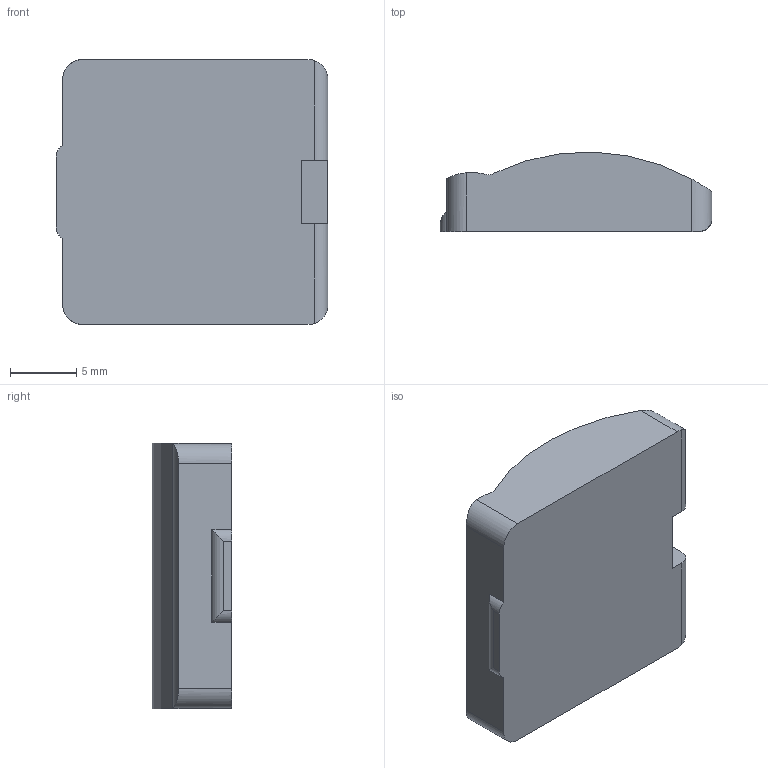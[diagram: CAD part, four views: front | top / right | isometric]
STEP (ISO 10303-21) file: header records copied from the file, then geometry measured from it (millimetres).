
FILE_DESCRIPTION(/* description */ (''),/* implementation_level */ '2;1');
FILE_NAME(/* name */ 'Modular Brass Deflector Delete v2.step',/* time_stamp */ '2022-12-09T17:21:07-05:00',/* author */ (''),/* organization */ (''),/* preprocessor_version */ 'ST-DEVELOPER v19.2',/* originating_system */ 'Autodesk Translation Framework v11.17.0.187',/* authorisation */ '');
FILE_SCHEMA (('AUTOMOTIVE_DESIGN { 1 0 10303 214 3 1 1 }'));
Length unit declared in the file: millimetre
Products named in the file (1): Modular Brass Deflector Delete
Bounding box: 20.5 x 5.99 x 20 mm (x, y, z)
Volume: 2002.2 mm3; surface area: 1155.7 mm2
Topology: 1 solids, 1 shells, 22 faces, 60 edges, 40 vertices
Faces by surface type: cylinder 12, plane 10
Entity records: 775 total; most frequent: CARTESIAN_POINT 177, ORIENTED_EDGE 120, DIRECTION 116, EDGE_CURVE 60, VERTEX_POINT 40, AXIS2_PLACEMENT_3D 39, LINE 38, VECTOR 38
